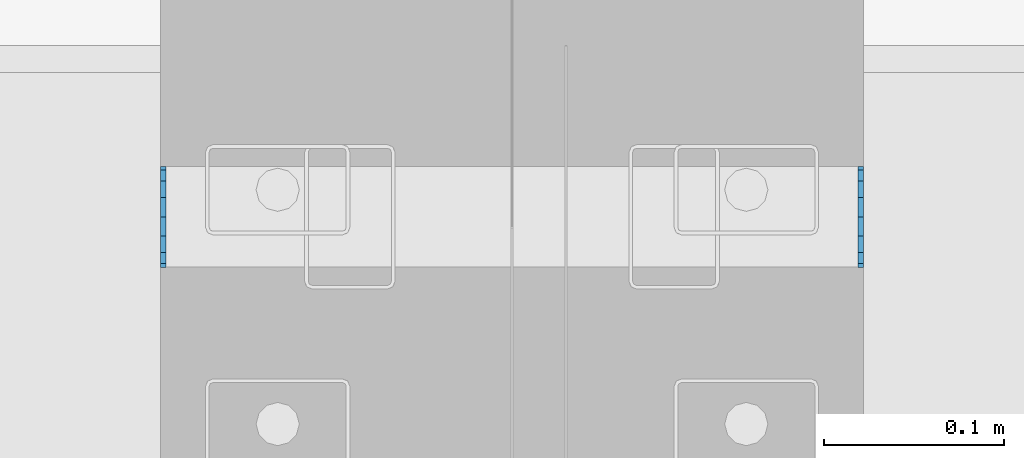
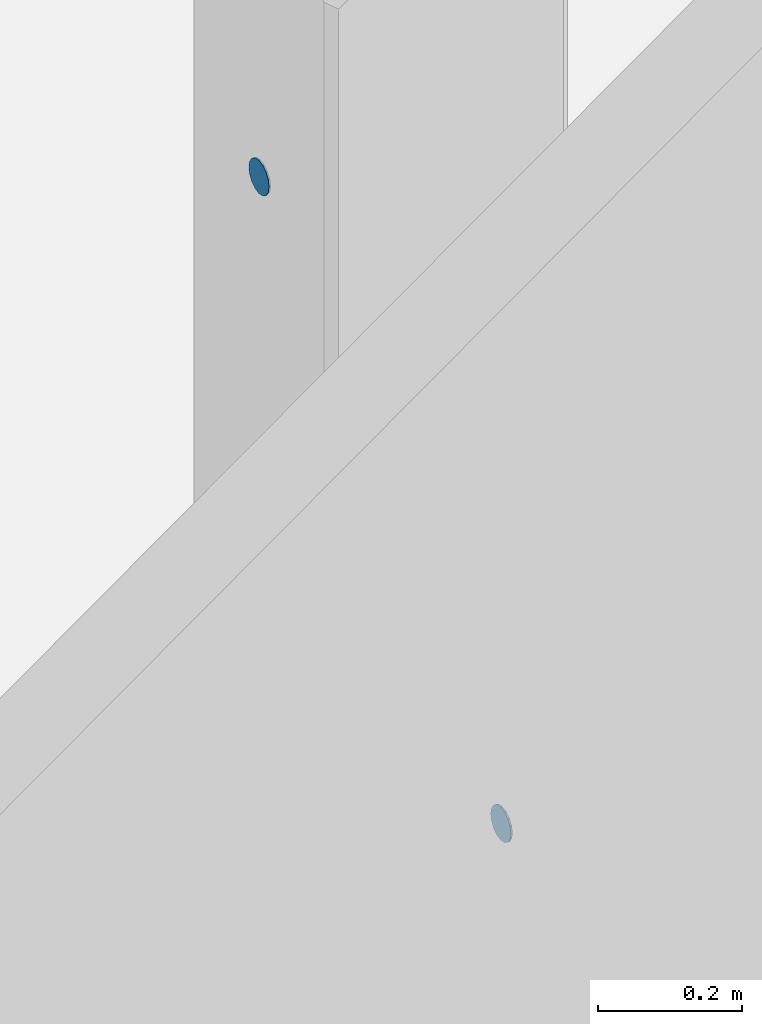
# One storey, part 79 of 186: 2 beams.
"""IFC4X3_ADD2 building model written with IfcOpenShell, lengths in millimetres."""

from ifc_helpers import new_model, si_unit, direction, frame, origin_with_axes, place, context, subcontext, project, spatial, indexed_curve, outline, extrude, material, element, save


model = new_model("IFC4X3_ADD2")

# Units and contexts
model_context = context("Model", 3, precision=1e-05, world=origin_with_axes(), true_north=direction((0.0, 1.0)))
body_context = subcontext(model_context, "Body", "Model", "MODEL_VIEW")
ifc_project = project(units=[si_unit("LENGTHUNIT", "METRE", prefix="MILLI"), si_unit("AREAUNIT", "SQUARE_METRE"), si_unit("VOLUMEUNIT", "CUBIC_METRE"), si_unit("PLANEANGLEUNIT", "RADIAN"), si_unit("TIMEUNIT", "SECOND"), si_unit("MASSUNIT", "GRAM")], contexts=[model_context])

# Site, building, storey
site_placement = place(None, origin_with_axes())
site = spatial("IfcSite", under=ifc_project, at=site_placement, Name="Site", CompositionType="ELEMENT")
building_placement = place(site_placement, origin_with_axes())
building = spatial("IfcBuilding", under=site, at=building_placement, Name="IFC Building Story")
storey_placement = place(building_placement, frame((0.0, 0.0, 4370.0), z_axis=(0.0, 0.0, 1.0), x_axis=(1.0, 0.0, 0.0)))
storey = spatial("IfcBuildingStorey", under=building, at=storey_placement, Name="ETAGE 10 (1)", Elevation=4370.0)

# Beams
ifc_material = material(Name="STEEL/Accessory 22919")
beam_1_placement = place(storey_placement, frame((40161.189, -14265.0, 840.0), z_axis=(-1.0, 0.0, 0.0), x_axis=(0.0, 0.5555702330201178, 0.8314696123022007)))
element("IfcBeam", 1, at=beam_1_placement, inside=storey, material=ifc_material, Name="TA4", ObjectType="D56", context=body_context, shape_type="SweptSolid", body=[
    extrude(outline(indexed_curve([(23.28114914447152, 15.55596652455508), (27.46198785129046, 5.462529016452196), (27.46198785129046, -5.462529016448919), (23.28114914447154, -15.55596652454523), (15.55596652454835, -23.28114914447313), (5.462529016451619, -27.46198785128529), (-5.462529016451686, -27.46198785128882), (-15.55596652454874, -23.28114914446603), (-23.2811491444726, -15.55596652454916), (-27.46198785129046, -5.462529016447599), (-27.46198785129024, 5.462529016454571), (-23.28114914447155, 15.55596652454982), (-15.55596652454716, 23.28114914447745), (-5.462529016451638, 27.46198785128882), (5.462529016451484, 27.46198785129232), (15.55596652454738, 23.28114914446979), (23.28114914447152, 15.55596652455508)])), origin_with_axes(), (0.0, 0.0, 1.0), 3.0),
])
beam_2_placement = place(storey_placement, frame((39774.18900000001, -14265.0, 2070.0), z_axis=(-1.0, 0.0, 0.0), x_axis=(0.0, 0.1950903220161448, 0.9807852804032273)))
element("IfcBeam", 2, at=beam_2_placement, inside=storey, material=ifc_material, Name="TA4", ObjectType="D56", context=body_context, shape_type="SweptSolid", body=[
    extrude(outline(indexed_curve([(23.28114914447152, 15.55596652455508), (27.46198785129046, 5.462529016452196), (27.46198785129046, -5.462529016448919), (23.28114914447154, -15.55596652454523), (15.55596652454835, -23.28114914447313), (5.462529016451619, -27.46198785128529), (-5.462529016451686, -27.46198785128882), (-15.55596652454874, -23.28114914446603), (-23.2811491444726, -15.55596652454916), (-27.46198785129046, -5.462529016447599), (-27.46198785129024, 5.462529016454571), (-23.28114914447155, 15.55596652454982), (-15.55596652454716, 23.28114914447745), (-5.462529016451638, 27.46198785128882), (5.462529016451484, 27.46198785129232), (15.55596652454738, 23.28114914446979), (23.28114914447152, 15.55596652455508)])), origin_with_axes(), (0.0, 0.0, 1.0), 3.000000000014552),
])

save(model, "model.ifc")
